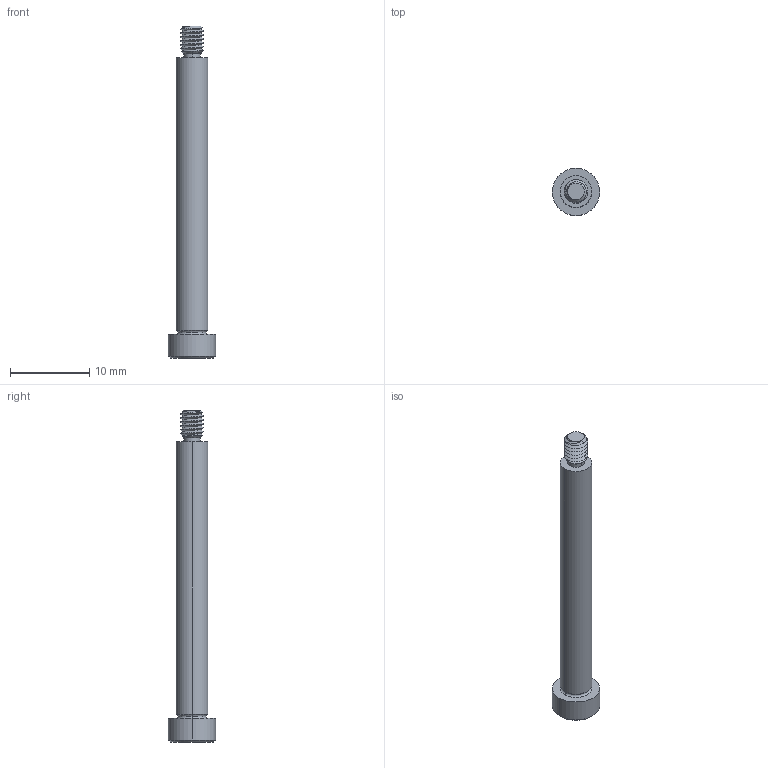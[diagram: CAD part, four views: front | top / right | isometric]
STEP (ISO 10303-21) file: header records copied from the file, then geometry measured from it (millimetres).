
FILE_DESCRIPTION (( 'STEP AP203' ), '1' );
FILE_NAME ('P0130.040-035-B2.step', '2021-11-09T21:07:30', ( '' ), ( '' ), 'SwSTEP 2.0', 'SolidWorks 2019', '' );
FILE_SCHEMA (( 'CONFIG_CONTROL_DESIGN' ));
Length unit declared in the file: millimetre
Products named in the file (1): P0130.040-035-B2
Bounding box: 6 x 6 x 42 mm (x, y, z)
Volume: 535.1 mm3; surface area: 624.2 mm2
Topology: 1 solids, 1 shells, 54 faces, 124 edges, 73 vertices
Faces by surface type: cylinder 18, plane 16, cone 14, torus 4, bspline 2
Entity records: 2218 total; most frequent: CARTESIAN_POINT 1016, ORIENTED_EDGE 244, DIRECTION 229, EDGE_CURVE 122, AXIS2_PLACEMENT_3D 93, VERTEX_POINT 73, EDGE_LOOP 57, FACE_OUTER_BOUND 54
